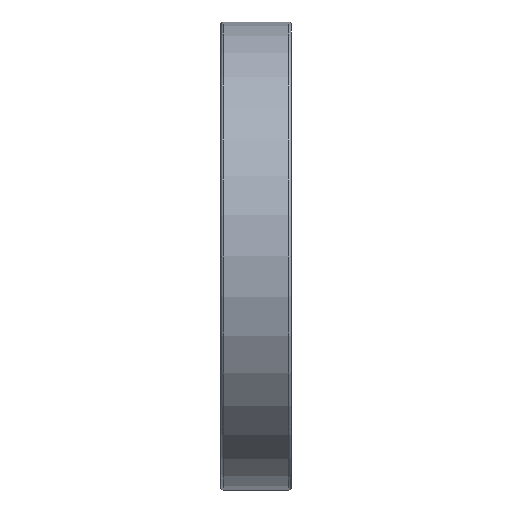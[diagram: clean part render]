
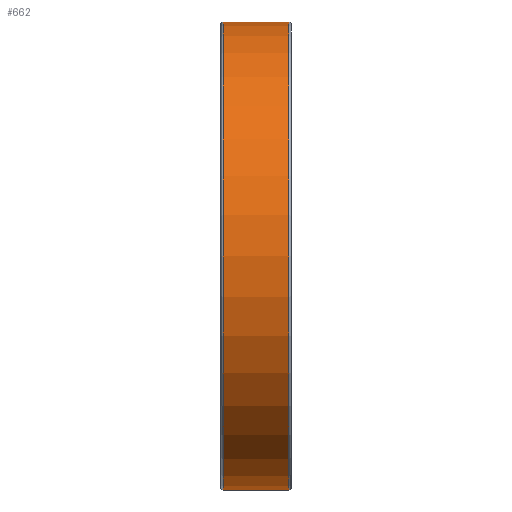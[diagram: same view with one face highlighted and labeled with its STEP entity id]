
A CAD part, front view. The second image highlights one B-rep face of the part: STEP entity #662.
In plain terms, the highlighted cylindrical face has radius 60 mm (diameter 120 mm), a full revolution.
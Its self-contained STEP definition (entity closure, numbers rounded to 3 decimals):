
#188=CYLINDRICAL_SURFACE('',#1058,60.);
#316=EDGE_LOOP('',(#456));
#317=EDGE_LOOP('',(#457));
#456=ORIENTED_EDGE('',*,*,#534,.F.);
#457=ORIENTED_EDGE('',*,*,#532,.T.);
#532=EDGE_CURVE('',#971,#971,#552,.T.);
#534=EDGE_CURVE('',#973,#973,#554,.T.);
#552=CIRCLE('',#1054,60.);
#554=CIRCLE('',#1057,60.);
#662=ADVANCED_FACE('',(#845,#846),#188,.T.);
#845=FACE_BOUND('',#316,.T.);
#846=FACE_BOUND('',#317,.T.);
#971=VERTEX_POINT('',#2298);
#973=VERTEX_POINT('',#2303);
#1054=AXIS2_PLACEMENT_3D('',#2297,#1203,#1204);
#1057=AXIS2_PLACEMENT_3D('',#2302,#1209,#1210);
#1058=AXIS2_PLACEMENT_3D('',#2304,#1211,#1212);
#1203=DIRECTION('',(1.,0.,0.));
#1204=DIRECTION('',(0.,0.,-1.));
#1209=DIRECTION('',(1.,0.,0.));
#1210=DIRECTION('',(0.,0.,-1.));
#1211=DIRECTION('',(1.,0.,0.));
#1212=DIRECTION('',(0.,0.,-1.));
#2297=CARTESIAN_POINT('',(-8.4,0.,0.));
#2298=CARTESIAN_POINT('',(-8.4,0.,-60.));
#2302=CARTESIAN_POINT('',(8.4,0.,0.));
#2303=CARTESIAN_POINT('',(8.4,0.,-60.));
#2304=CARTESIAN_POINT('',(-8.4,0.,0.));
